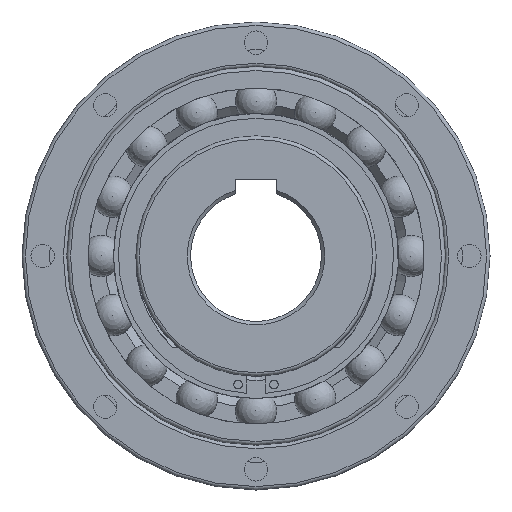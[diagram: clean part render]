
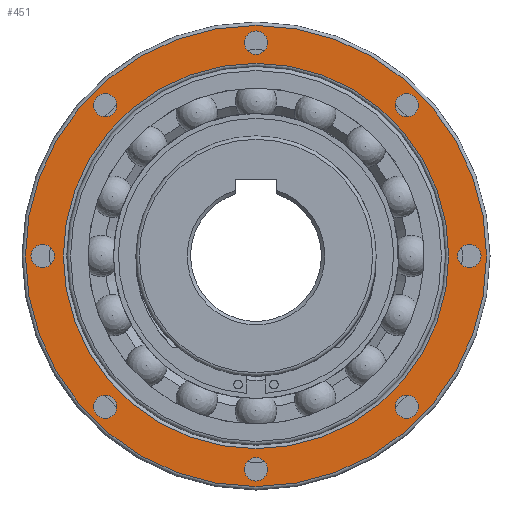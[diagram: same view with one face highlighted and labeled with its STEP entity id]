
A CAD part, left-side view. The second image highlights one B-rep face of the part: STEP entity #451.
In plain terms, the highlighted planar face has unit normal (-1, 0, 0).
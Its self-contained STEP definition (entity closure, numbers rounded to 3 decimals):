
#451 = ADVANCED_FACE( '', ( #1014, #1015, #1016, #1017, #1018, #1019, #1020, #1021, #1022, #1023 ), #1024, .F. );
#1014 = FACE_OUTER_BOUND( '', #1636, .T. );
#1015 = FACE_BOUND( '', #1637, .T. );
#1016 = FACE_BOUND( '', #1638, .T. );
#1017 = FACE_BOUND( '', #1639, .T. );
#1018 = FACE_BOUND( '', #1640, .T. );
#1019 = FACE_BOUND( '', #1641, .T. );
#1020 = FACE_BOUND( '', #1642, .T. );
#1021 = FACE_BOUND( '', #1643, .T. );
#1022 = FACE_BOUND( '', #1644, .T. );
#1023 = FACE_BOUND( '', #1645, .T. );
#1024 = PLANE( '', #1646 );
#1636 = EDGE_LOOP( '', ( #2956 ) );
#1637 = EDGE_LOOP( '', ( #2957 ) );
#1638 = EDGE_LOOP( '', ( #2958 ) );
#1639 = EDGE_LOOP( '', ( #2959 ) );
#1640 = EDGE_LOOP( '', ( #2960 ) );
#1641 = EDGE_LOOP( '', ( #2961 ) );
#1642 = EDGE_LOOP( '', ( #2962 ) );
#1643 = EDGE_LOOP( '', ( #2963 ) );
#1644 = EDGE_LOOP( '', ( #2964 ) );
#1645 = EDGE_LOOP( '', ( #2965 ) );
#1646 = AXIS2_PLACEMENT_3D( '', #2966, #2967, #2968 );
#2956 = ORIENTED_EDGE( '', *, *, #3473, .T. );
#2957 = ORIENTED_EDGE( '', *, *, #3379, .T. );
#2958 = ORIENTED_EDGE( '', *, *, #3813, .T. );
#2959 = ORIENTED_EDGE( '', *, *, #3643, .T. );
#2960 = ORIENTED_EDGE( '', *, *, #3814, .T. );
#2961 = ORIENTED_EDGE( '', *, *, #3737, .T. );
#2962 = ORIENTED_EDGE( '', *, *, #3815, .T. );
#2963 = ORIENTED_EDGE( '', *, *, #3816, .T. );
#2964 = ORIENTED_EDGE( '', *, *, #3817, .T. );
#2965 = ORIENTED_EDGE( '', *, *, #3480, .T. );
#2966 = CARTESIAN_POINT( '', ( 3.5, 0., 68. ) );
#2967 = DIRECTION( '', ( 1., 0., 0. ) );
#2968 = DIRECTION( '', ( 0., 1., 0. ) );
#3379 = EDGE_CURVE( '', #4038, #4038, #4039, .T. );
#3473 = EDGE_CURVE( '', #4207, #4207, #4208, .T. );
#3480 = EDGE_CURVE( '', #4217, #4217, #4218, .T. );
#3643 = EDGE_CURVE( '', #4457, #4457, #4458, .T. );
#3737 = EDGE_CURVE( '', #4590, #4590, #4591, .T. );
#3813 = EDGE_CURVE( '', #4683, #4683, #4684, .T. );
#3814 = EDGE_CURVE( '', #4685, #4685, #4686, .T. );
#3815 = EDGE_CURVE( '', #4687, #4687, #4688, .T. );
#3816 = EDGE_CURVE( '', #4689, #4689, #4690, .T. );
#3817 = EDGE_CURVE( '', #4691, #4691, #4692, .T. );
#4038 = VERTEX_POINT( '', #5091 );
#4039 = CIRCLE( '', #5092, 56. );
#4207 = VERTEX_POINT( '', #5561 );
#4208 = CIRCLE( '', #5562, 67. );
#4217 = VERTEX_POINT( '', #5573 );
#4218 = CIRCLE( '', #5574, 3.4 );
#4457 = VERTEX_POINT( '', #6684 );
#4458 = CIRCLE( '', #6685, 3.4 );
#4590 = VERTEX_POINT( '', #7117 );
#4591 = CIRCLE( '', #7118, 3.4 );
#4683 = VERTEX_POINT( '', #7444 );
#4684 = CIRCLE( '', #7445, 3.4 );
#4685 = VERTEX_POINT( '', #7446 );
#4686 = CIRCLE( '', #7447, 3.4 );
#4687 = VERTEX_POINT( '', #7448 );
#4688 = CIRCLE( '', #7449, 3.4 );
#4689 = VERTEX_POINT( '', #7450 );
#4690 = CIRCLE( '', #7451, 3.4 );
#4691 = VERTEX_POINT( '', #7452 );
#4692 = CIRCLE( '', #7453, 3.4 );
#5091 = CARTESIAN_POINT( '', ( 3.5, 0., -56. ) );
#5092 = AXIS2_PLACEMENT_3D( '', #7712, #7713, #7714 );
#5561 = CARTESIAN_POINT( '', ( 3.5, 0., -67. ) );
#5562 = AXIS2_PLACEMENT_3D( '', #7853, #7854, #7855 );
#5573 = CARTESIAN_POINT( '', ( 3.5, -43.841, 40.441 ) );
#5574 = AXIS2_PLACEMENT_3D( '', #7861, #7862, #7863 );
#6684 = CARTESIAN_POINT( '', ( 3.5, -43.841, -47.241 ) );
#6685 = AXIS2_PLACEMENT_3D( '', #8007, #8008, #8009 );
#7117 = CARTESIAN_POINT( '', ( 3.5, 43.841, -47.241 ) );
#7118 = AXIS2_PLACEMENT_3D( '', #8115, #8116, #8117 );
#7444 = CARTESIAN_POINT( '', ( 3.5, -62., -3.4 ) );
#7445 = AXIS2_PLACEMENT_3D( '', #8163, #8164, #8165 );
#7446 = CARTESIAN_POINT( '', ( 3.5, 0., -65.4 ) );
#7447 = AXIS2_PLACEMENT_3D( '', #8166, #8167, #8168 );
#7448 = CARTESIAN_POINT( '', ( 3.5, 62., -3.4 ) );
#7449 = AXIS2_PLACEMENT_3D( '', #8169, #8170, #8171 );
#7450 = CARTESIAN_POINT( '', ( 3.5, 43.841, 40.441 ) );
#7451 = AXIS2_PLACEMENT_3D( '', #8172, #8173, #8174 );
#7452 = CARTESIAN_POINT( '', ( 3.5, 0., 58.6 ) );
#7453 = AXIS2_PLACEMENT_3D( '', #8175, #8176, #8177 );
#7712 = CARTESIAN_POINT( '', ( 3.5, 0., 0. ) );
#7713 = DIRECTION( '', ( 1., 0., 0. ) );
#7714 = DIRECTION( '', ( 0., 0., -1. ) );
#7853 = CARTESIAN_POINT( '', ( 3.5, 0., 0. ) );
#7854 = DIRECTION( '', ( -1., 0., 0. ) );
#7855 = DIRECTION( '', ( 0., 0., -1. ) );
#7861 = CARTESIAN_POINT( '', ( 3.5, -43.841, 43.841 ) );
#7862 = DIRECTION( '', ( 1., 0., 0. ) );
#7863 = DIRECTION( '', ( 0., 0., -1. ) );
#8007 = CARTESIAN_POINT( '', ( 3.5, -43.841, -43.841 ) );
#8008 = DIRECTION( '', ( 1., 0., 0. ) );
#8009 = DIRECTION( '', ( 0., 0., -1. ) );
#8115 = CARTESIAN_POINT( '', ( 3.5, 43.841, -43.841 ) );
#8116 = DIRECTION( '', ( 1., 0., 0. ) );
#8117 = DIRECTION( '', ( 0., 0., -1. ) );
#8163 = CARTESIAN_POINT( '', ( 3.5, -62., 0. ) );
#8164 = DIRECTION( '', ( 1., 0., 0. ) );
#8165 = DIRECTION( '', ( 0., 0., -1. ) );
#8166 = CARTESIAN_POINT( '', ( 3.5, 0., -62. ) );
#8167 = DIRECTION( '', ( 1., 0., 0. ) );
#8168 = DIRECTION( '', ( 0., 0., -1. ) );
#8169 = CARTESIAN_POINT( '', ( 3.5, 62., 0. ) );
#8170 = DIRECTION( '', ( 1., 0., 0. ) );
#8171 = DIRECTION( '', ( 0., 0., -1. ) );
#8172 = CARTESIAN_POINT( '', ( 3.5, 43.841, 43.841 ) );
#8173 = DIRECTION( '', ( 1., 0., 0. ) );
#8174 = DIRECTION( '', ( 0., 0., -1. ) );
#8175 = CARTESIAN_POINT( '', ( 3.5, 0., 62. ) );
#8176 = DIRECTION( '', ( 1., 0., 0. ) );
#8177 = DIRECTION( '', ( 0., 0., -1. ) );
